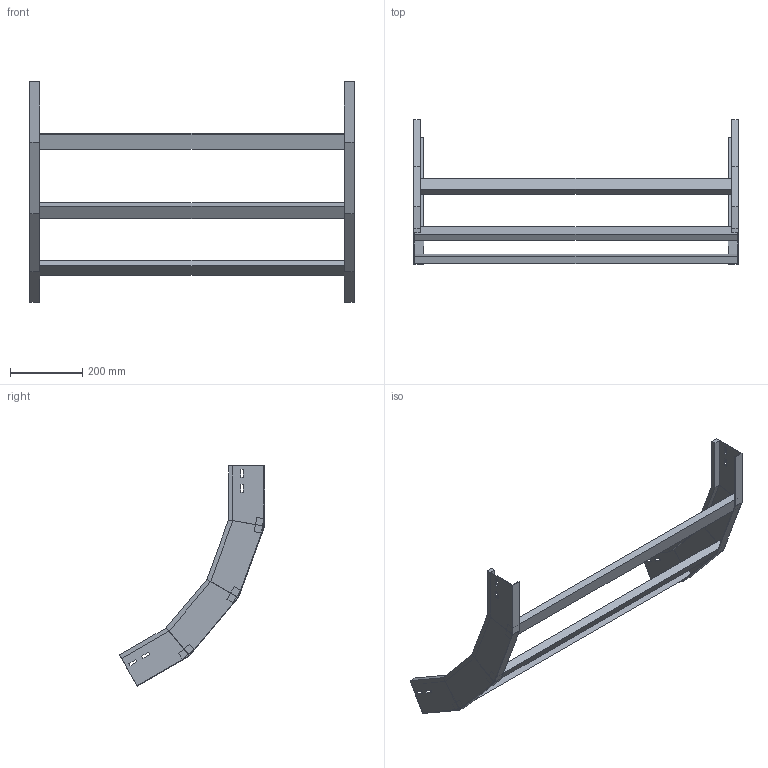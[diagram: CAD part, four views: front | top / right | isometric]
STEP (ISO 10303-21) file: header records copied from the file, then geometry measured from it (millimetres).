
FILE_DESCRIPTION (( 'STEP AP214' ), '1' );
FILE_NAME ('A2X40B5D900XX.step', '2025-03-20T10:12:27', ( '' ), ( '' ), 'SwSTEP 2.0', 'SolidWorks 2023', '' );
FILE_SCHEMA (( 'AUTOMOTIVE_DESIGN' ));
Length unit declared in the file: millimetre
Products named in the file (3): LONGH.SALITA_60°_H100_R500; TRAVERSINO_900; A2X40B5D900XX
Assembly tree (5 placements, depth 2):
  A2X40B5D900XX
    LONGH.SALITA_60°_H100_R500  x2
    TRAVERSINO_900  x3
Bounding box: 900 x 402.87 x 611.18 mm (x, y, z)
Volume: 2784550.8 mm3; surface area: 735291.1 mm2
Topology: 5 solids, 5 shells, 118 faces, 276 edges, 168 vertices
Faces by surface type: plane 118
Entity records: 1672 total; most frequent: CARTESIAN_POINT 276, ORIENTED_EDGE 264, DIRECTION 260, LINE 132, EDGE_CURVE 132, VECTOR 132, VERTEX_POINT 80, AXIS2_PLACEMENT_3D 64
